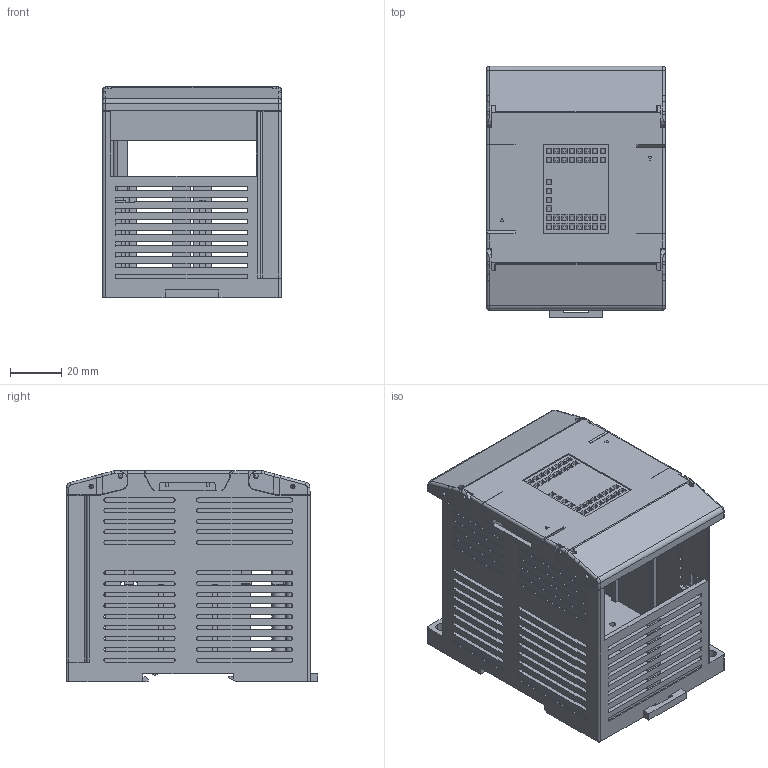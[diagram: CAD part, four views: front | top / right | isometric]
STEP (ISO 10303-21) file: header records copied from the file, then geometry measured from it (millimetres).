
FILE_DESCRIPTION (( 'STEP AP203' ), '1' );
FILE_NAME ('7公分 经典PLC扩展模块.STEP', '2023-06-10T02:50:18', ( 'h''w''s''j''s' ), ( '' ), 'SwSTEP 2.0', 'SolidWorks 2020', '' );
FILE_SCHEMA (( 'CONFIG_CONTROL_DESIGN' ));
Length unit declared in the file: millimetre
Products named in the file (1): 7公分 经典PLC扩展模块
Bounding box: 69.7 x 98 x 82.2 mm (x, y, z)
Volume: 123929.6 mm3; surface area: 90345.6 mm2
Topology: 1 solids, 1 shells, 1407 faces, 4141 edges, 2726 vertices
Faces by surface type: plane 967, cylinder 393, bspline 31, cone 8, sphere 6, torus 2
Entity records: 47739 total; most frequent: CARTESIAN_POINT 9588, ORIENTED_EDGE 8250, DIRECTION 7464, EDGE_CURVE 4125, LINE 3220, VECTOR 3220, VERTEX_POINT 2716, AXIS2_PLACEMENT_3D 2122
